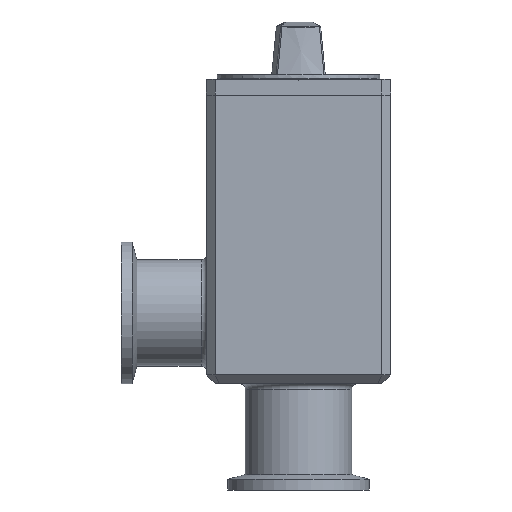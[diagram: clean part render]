
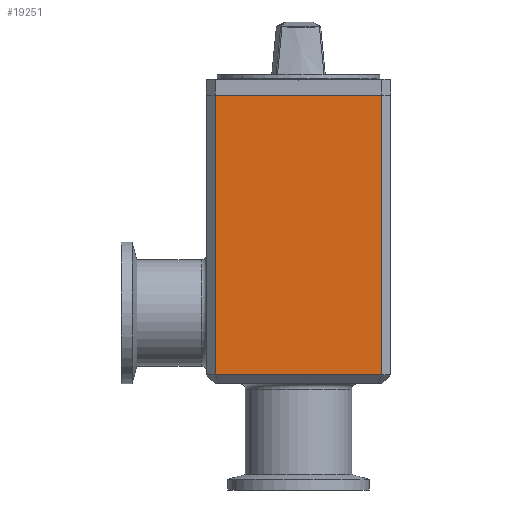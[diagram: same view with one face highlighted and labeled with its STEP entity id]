
A CAD part, front view. The second image highlights one B-rep face of the part: STEP entity #19251.
In plain terms, the highlighted planar face has unit normal (0, -1, 0).
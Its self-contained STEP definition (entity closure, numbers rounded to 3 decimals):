
#531 = DIRECTION ( 'NONE',  ( 0., 1., 0. ) ) ;
#781 = VECTOR ( 'NONE', #20881, 1000. ) ;
#1029 = LINE ( 'NONE', #18776, #14650 ) ;
#1666 = EDGE_LOOP ( 'NONE', ( #19700, #21826, #22568, #9651 ) ) ;
#2683 = LINE ( 'NONE', #4567, #781 ) ;
#3053 = CARTESIAN_POINT ( 'NONE',  ( -23.5, -26., 2.5 ) ) ;
#3959 = DIRECTION ( 'NONE',  ( 0., 0., 1. ) ) ;
#4195 = DIRECTION ( 'NONE',  ( 0., 0., 1. ) ) ;
#4315 = EDGE_CURVE ( 'NONE', #18754, #15901, #13197, .T. ) ;
#4567 = CARTESIAN_POINT ( 'NONE',  ( -23.5, -26., 81.5 ) ) ;
#5940 = CARTESIAN_POINT ( 'NONE',  ( 23.5, -26., 81.5 ) ) ;
#6750 = CARTESIAN_POINT ( 'NONE',  ( -23.5, -26., 81.5 ) ) ;
#6757 = EDGE_CURVE ( 'NONE', #11110, #15901, #14867, .T. ) ;
#7312 = EDGE_CURVE ( 'NONE', #18754, #16347, #2683, .T. ) ;
#7586 = DIRECTION ( 'NONE',  ( 1., 0., 0. ) ) ;
#8189 = DIRECTION ( 'NONE',  ( 1., 0., 0. ) ) ;
#8822 = CARTESIAN_POINT ( 'NONE',  ( 23.5, -26., 81.5 ) ) ;
#9651 = ORIENTED_EDGE ( 'NONE', *, *, #4315, .F. ) ;
#9786 = VECTOR ( 'NONE', #7586, 1000. ) ;
#11110 = VERTEX_POINT ( 'NONE', #14915 ) ;
#12966 = FACE_OUTER_BOUND ( 'NONE', #1666, .T. ) ;
#13197 = LINE ( 'NONE', #18271, #9786 ) ;
#14650 = VECTOR ( 'NONE', #8189, 1000. ) ;
#14867 = LINE ( 'NONE', #5940, #22170 ) ;
#14915 = CARTESIAN_POINT ( 'NONE',  ( 23.5, -26., 2.5 ) ) ;
#15901 = VERTEX_POINT ( 'NONE', #8822 ) ;
#16347 = VERTEX_POINT ( 'NONE', #3053 ) ;
#18271 = CARTESIAN_POINT ( 'NONE',  ( -26., -26., 81.5 ) ) ;
#18307 = EDGE_CURVE ( 'NONE', #16347, #11110, #1029, .T. ) ;
#18754 = VERTEX_POINT ( 'NONE', #6750 ) ;
#18776 = CARTESIAN_POINT ( 'NONE',  ( 19.964, -26., 2.5 ) ) ;
#19251 = ADVANCED_FACE ( 'NONE', ( #12966 ), #19920, .F. ) ;
#19700 = ORIENTED_EDGE ( 'NONE', *, *, #7312, .T. ) ;
#19920 = PLANE ( 'NONE',  #20625 ) ;
#20146 = CARTESIAN_POINT ( 'NONE',  ( -26., -26., 81.5 ) ) ;
#20625 = AXIS2_PLACEMENT_3D ( 'NONE', #20146, #531, #3959 ) ;
#20881 = DIRECTION ( 'NONE',  ( 0., 0., -1. ) ) ;
#21826 = ORIENTED_EDGE ( 'NONE', *, *, #18307, .T. ) ;
#22170 = VECTOR ( 'NONE', #4195, 1000. ) ;
#22568 = ORIENTED_EDGE ( 'NONE', *, *, #6757, .T. ) ;
